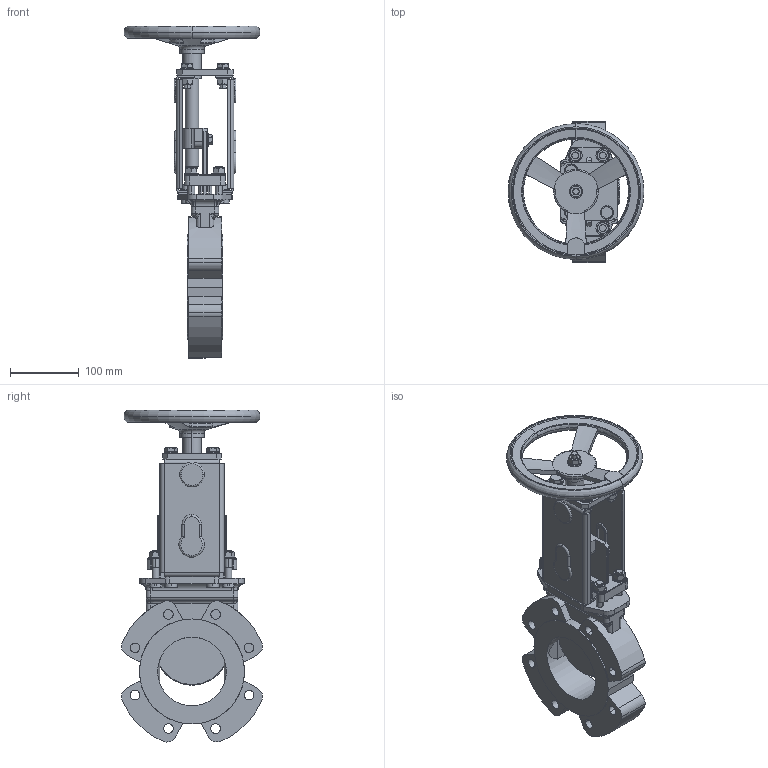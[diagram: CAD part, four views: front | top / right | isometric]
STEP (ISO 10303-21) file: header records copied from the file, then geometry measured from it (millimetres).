
FILE_DESCRIPTION(('STEP AP203'),'1');
FILE_NAME('G:/KONSTRUK/3-d block för CD/WB VALVE/HAND WHEEL/100/WB14-DN100-HW.stp','2013-03-05T15:27:00',(' '),(' '),'Spatial InterOp 3D',' ',' ');
FILE_SCHEMA(('CONFIG_CONTROL_DESIGN'));
Length unit declared in the file: millimetre
Products named in the file (7): 1; 2; 3; 4; 5; 6; 7
Bounding box: 198 x 205.38 x 483.75 mm (x, y, z)
Volume: 2114813.8 mm3; surface area: 401828.9 mm2
Topology: 7 solids, 15 shells, 1253 faces, 3081 edges, 1911 vertices
Faces by surface type: plane 508, cylinder 350, cone 291, torus 72, bspline 24, sphere 8
Entity records: 44596 total; most frequent: CARTESIAN_POINT 14845, DIRECTION 6254, ORIENTED_EDGE 6108, EDGE_CURVE 3054, AXIS2_PLACEMENT_3D 2484, VERTEX_POINT 1911, EDGE_LOOP 1383, LINE 1286
